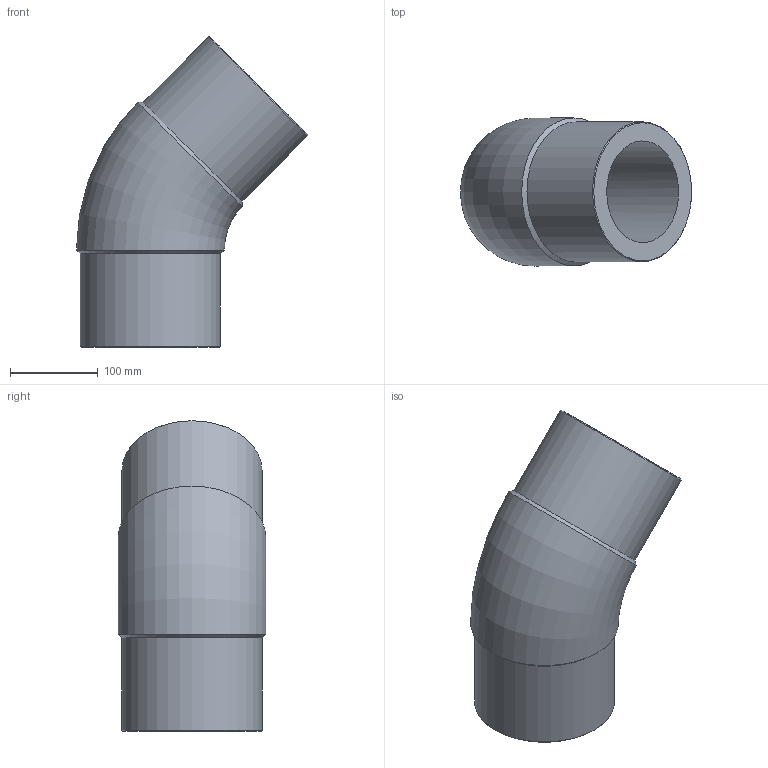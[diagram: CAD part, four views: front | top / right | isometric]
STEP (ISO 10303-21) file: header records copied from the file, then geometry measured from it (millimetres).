
FILE_DESCRIPTION(/* description */ ('Unknown'),/* implementation_level */ '2;1');
FILE_NAME(/* name */ 'G4P160H',/* time_stamp */ '2022-01-21T10:00:26+01:00',/* author */ ('Unknown'),/* organization */ ('Unknown'),/* preprocessor_version */ 'ST-DEVELOPER v18.1',/* originating_system */ 'Solid Edge',/* authorisation */ 'Unknown');
FILE_SCHEMA (('AUTOMOTIVE_DESIGN {1 0 10303 214 3 1 1}'));
Length unit declared in the file: millimetre
Products named in the file (1): G4P160H
Bounding box: 264.11 x 169 x 354.61 mm (x, y, z)
Volume: 3583257.7 mm3; surface area: 321868.1 mm2
Topology: 1 solids, 1 shells, 12 faces, 30 edges, 20 vertices
Faces by surface type: cone 4, cylinder 4, plane 2, torus 2
Full cylindrical faces by diameter (mm): 116.2 x2, 160 x2
Entity records: 330 total; most frequent: CARTESIAN_POINT 64, DIRECTION 52, ORIENTED_EDGE 34, AXIS2_PLACEMENT_3D 26, EDGE_LOOP 23, FACE_BOUND 23, EDGE_CURVE 17, VERTEX_POINT 16
